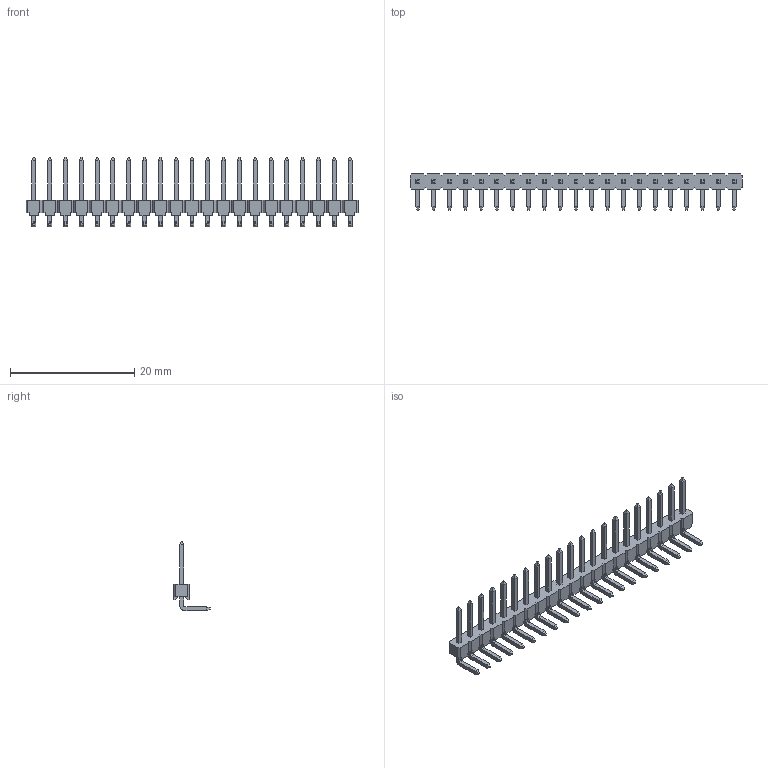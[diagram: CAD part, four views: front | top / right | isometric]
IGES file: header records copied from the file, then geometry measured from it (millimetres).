
Global section: file name: N:\GOLF_VI_2_54mm_UGII\961XXX-5X04-XX (TS-2182)\961121-5804-XX.igs; native system: NX V3.0; preprocessor: UGS NX IGES V4.0; date: 20070618.133224; units: millimetre
Bounding box: 53.34 x 5.8 x 11.12 mm (x, y, z)
Surface area: 1237.2 mm2 (no closed solid volume)
Topology: 0 solids, 0 shells, 804 faces, 4267 edges, 4267 vertices
Faces by surface type: bspline 804
